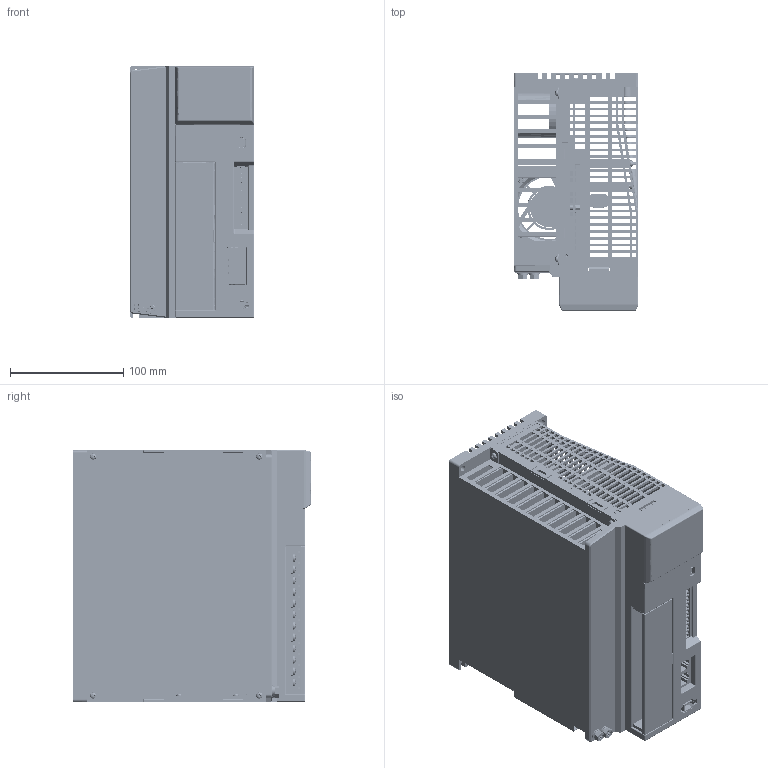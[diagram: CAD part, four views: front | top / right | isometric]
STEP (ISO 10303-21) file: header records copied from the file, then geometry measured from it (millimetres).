
FILE_DESCRIPTION(/* description */ (''),/* implementation_level */ '2;1');
FILE_NAME(/* name */ 'DS5C-43P0-PTA-官网图',/* time_stamp */ '2021-09-11T13:27:23+08:00',/* author */ (''),/* organization */ (''),/* preprocessor_version */ 'ST-DEVELOPER v15',/* originating_system */ '',/* authorisation */ '');
FILE_SCHEMA (('AUTOMOTIVE_DESIGN'));
Products named in the file (1): Document
Bounding box: 110.2 x 210.13 x 222 mm (x, y, z)
Surface area: 746956 mm2 (no closed solid volume)
Topology: 0 solids, 7847 shells, 7847 faces, 46330 edges, 46304 vertices
Faces by surface type: bspline 3959, plane 3888
Entity records: 577595 total; most frequent: CARTESIAN_POINT 336933, ORIENTED_EDGE 46305, EDGE_CURVE 46305, VERTEX_POINT 46305, B_SPLINE_CURVE_WITH_KNOTS 40671, EDGE_LOOP 8579, PRESENTATION_LAYER_ASSIGNMENT 7847, SHELL_BASED_SURFACE_MODEL 7847
